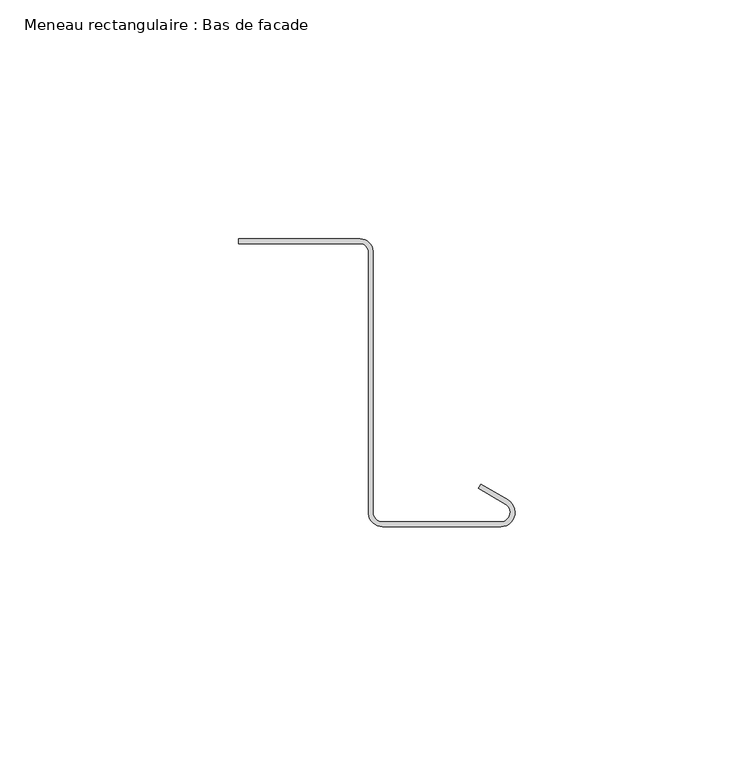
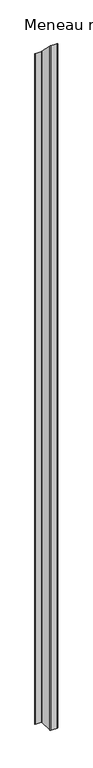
"""IFC4 building model written with IfcOpenShell, lengths in millimetres: member geometry, Meneau rectangulaire : Bas de facade."""

from ifc_helpers import new_model, si_unit, frame, origin, place, context, project, spatial, polyline, circle_curve, ellipse_curve, source, transform, mapped, element, save
from ifc_brep_helpers import plane_surface, cylinder_surface, revolved_surface, advanced_brep


def meneau_rectangulaire_bas_de_facade_c1fa5701(model_context):
    return source(origin(), model_context, "Body", "AdvancedBrep", [
        advanced_brep(
        [(-32.4584179, 2.9588923, -2865.0), (-29.7143802, 0.3898824, -2865.0), (-29.7143802, -54.5495817, -2865.0), (-27.735368, -56.2605998, -2865.0), (-3.0, -56.2605998, -2865.0), (-2.0, -52.528549, -2865.0), (-7.6638061, -49.258549, -2865.0), (-7.1638061, -48.3925235, -2865.0), (-1.5, -51.6625235, -2865.0), (-3.0, -57.2605998, -2865.0), (-27.735368, -57.2605998, -2865.0), (-30.7239521, -54.522067, -2865.0), (-30.7239521, 0.4415475, -2865.0), (-32.4584179, 1.9588923, -2865.0), (-57.8548383, 1.9588923, -2865.0), (-57.8548383, 2.9588923, -2865.0), (-57.8548383, 2.9588923, -2.9588923), (-32.4584179, 2.9588923, -2.9588923), (-57.8548383, 1.9588923, -1.9588923), (-32.4584179, 1.9588923, -1.9588923), (-30.7239521, 0.4415475, -0.4415475), (-30.7239521, -54.522067, 54.522067), (-27.735368, -57.2605998, 57.2605998), (-3.0, -57.2605998, 57.2605998), (-1.5, -51.6625235, 51.6625235), (-7.1638061, -48.3925235, 48.3925235), (-7.6638061, -49.258549, 49.258549), (-2.0, -52.528549, 52.528549), (-3.0, -56.2605998, 56.2605998), (-27.735368, -56.2605998, 56.2605998), (-29.7143802, -54.5495817, 54.5495817), (-29.7143802, 0.3898824, -0.3898824)],
        [
            (0, 1, circle_curve(frame((-32.4584179, 0.2088923, -2865.0), z_axis=(0.0, 0.0, -1.0), x_axis=(0.0, 1.0, 0.0)), 2.75)),
            (1, 2),
            (2, 3, circle_curve(frame((-27.735368, -54.2605998, -2865.0), z_axis=(0.0, 0.0, 1.0), x_axis=(-0.9961946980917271, -0.08715574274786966, 0.0)), 2.0)),
            (3, 4),
            (4, 5, circle_curve(frame((-3.0, -54.2605998, -2865.0), z_axis=(0.0, 0.0, 1.0), x_axis=(0.0, -1.0, 0.0)), 2.0)),
            (5, 6),
            (6, 7),
            (7, 8),
            (8, 9, circle_curve(frame((-3.0, -54.2605998, -2865.0), z_axis=(0.0, 0.0, -1.0), x_axis=(0.0, -1.0, 0.0)), 3.0)),
            (9, 10),
            (10, 11, circle_curve(frame((-27.735368, -54.2605998, -2865.0), z_axis=(0.0, 0.0, -1.0), x_axis=(-0.9961946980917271, -0.08715574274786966, 0.0)), 3.0)),
            (11, 12),
            (12, 13, circle_curve(frame((-32.4584179, 0.2088923, -2865.0), z_axis=(0.0, 0.0, 1.0), x_axis=(0.0, 1.0, 0.0)), 1.75)),
            (13, 14),
            (14, 15),
            (15, 0),
            (16, 17),
            (17, 0),
            (15, 16),
            (18, 16),
            (14, 18),
            (19, 18),
            (13, 19),
            (20, 19, ellipse_curve(frame((-32.4584179, 0.2088923, -0.2088923), z_axis=(0.0, 0.7071067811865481, 0.7071067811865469), x_axis=(0.0, 0.7071067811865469, -0.7071067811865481)), 2.4748737, 1.75)),
            (12, 20),
            (21, 20),
            (11, 21),
            (22, 21, ellipse_curve(frame((-27.735368, -54.2605998, 54.2605998), z_axis=(0.0, -0.7071067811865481, -0.7071067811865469), x_axis=(0.0, -0.7071067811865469, 0.7071067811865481)), 4.2426407, 3.0)),
            (10, 22),
            (23, 22),
            (9, 23),
            (24, 23, ellipse_curve(frame((-3.0, -54.2605998, 54.2605998), z_axis=(0.0, -0.7071067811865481, -0.7071067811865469), x_axis=(0.0, -0.7071067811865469, 0.7071067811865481)), 4.2426407, 3.0)),
            (8, 24),
            (25, 24),
            (7, 25),
            (26, 25),
            (6, 26),
            (27, 26),
            (5, 27),
            (28, 27, ellipse_curve(frame((-3.0, -54.2605998, 54.2605998), z_axis=(0.0, 0.7071067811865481, 0.7071067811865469), x_axis=(0.0, 0.7071067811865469, -0.7071067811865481)), 2.8284271, 2.0)),
            (4, 28),
            (29, 28),
            (3, 29),
            (30, 29, ellipse_curve(frame((-27.735368, -54.2605998, 54.2605998), z_axis=(0.0, 0.7071067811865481, 0.7071067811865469), x_axis=(0.0, 0.7071067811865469, -0.7071067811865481)), 2.8284271, 2.0)),
            (2, 30),
            (31, 30),
            (1, 31),
            (17, 31, ellipse_curve(frame((-32.4584179, 0.2088923, -0.2088923), z_axis=(0.0, -0.7071067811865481, -0.7071067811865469), x_axis=(0.0, -0.7071067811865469, 0.7071067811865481)), 3.8890873, 2.75)),
        ],
        [
            plane_surface(frame((0.0, -63.8351035, -2865.0), z_axis=(0.0, 0.0, -1.0), x_axis=(-1.0, 0.0, 0.0))),
            plane_surface(frame((-32.4584179, 2.9588923, 0.0), z_axis=(0.0, 1.0, 0.0), x_axis=(0.0, 0.0, -1.0))),
            plane_surface(frame((-57.8548383, 2.9588923, 0.0), z_axis=(-1.0, 0.0, 0.0), x_axis=(0.0, 0.0, -1.0))),
            plane_surface(frame((-57.8548383, 1.9588923, 0.0), z_axis=(0.0, -1.0, 0.0), x_axis=(0.0, 0.0, -1.0))),
            revolved_surface(polyline([(-32.4584179, 1.9588923, -2865.0), (-32.4584179, 1.9588923, 1.5411076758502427)]), (-32.4584179, 0.2088923, 0.0), (0.0, 0.0, -1.0)),
            plane_surface(frame((-30.7239521, 0.4415475, 0.0), z_axis=(-1.0, 0.0, 0.0), x_axis=(0.0, 0.0, -1.0))),
            cylinder_surface(frame((-27.735368, -54.2605998, 0.0), z_axis=(0.0, 0.0, 1.0000000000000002), x_axis=(-0.9961946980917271, -0.08715574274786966, 0.0)), 3.0),
            plane_surface(frame((-27.735368, -57.2605998, 0.0), z_axis=(0.0, -1.0, 0.0), x_axis=(0.0, 0.0, -1.0))),
            cylinder_surface(frame((-3.0, -54.2605998, 0.0), z_axis=(0.0, 0.0, 1.0), x_axis=(0.0, -1.0, 0.0)), 3.0),
            plane_surface(frame((-1.5, -51.6625235, 0.0), z_axis=(0.5000000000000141, 0.8660254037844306, 0.0), x_axis=(0.0, 0.0, -1.0))),
            plane_surface(frame((-7.1638061, -48.3925235, 0.0), z_axis=(-0.8660254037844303, 0.5000000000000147, 0.0), x_axis=(0.0, 0.0, -1.0))),
            plane_surface(frame((-7.6638061, -49.258549, 0.0), z_axis=(-0.500000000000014, -0.8660254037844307, 0.0), x_axis=(0.0, 0.0, -1.0))),
            revolved_surface(polyline([(-3.0, -56.2605998, -2865.0), (-3.0, -56.2605998, 56.2605998)]), (-3.0, -54.2605998, 0.0), (0.0, 0.0, -1.0)),
            plane_surface(frame((-3.0, -56.2605998, 0.0), z_axis=(0.0, 1.0, 0.0), x_axis=(0.0, 0.0, -1.0))),
            revolved_surface(polyline([(-29.727757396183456, -54.434911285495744, -2865.000000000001), (-29.727757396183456, -54.434911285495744, 56.26059980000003)]), (-27.735368, -54.2605998, 0.0), (0.0, 0.0, -1.0000000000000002)),
            plane_surface(frame((-29.7143802, -54.5495817, 0.0), z_axis=(1.0, 0.0, 0.0), x_axis=(0.0, 0.0, -1.0))),
            cylinder_surface(frame((-32.4584179, 0.2088923, 0.0), z_axis=(0.0, 0.0, 1.0), x_axis=(0.0, 1.0, 0.0)), 2.75),
            plane_surface(frame((-304.8, 0.0, 0.0), z_axis=(0.0, 0.7071067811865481, 0.7071067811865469), x_axis=(0.0, 0.7071067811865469, -0.7071067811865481))),
        ],
        [
            (0, [[1, 2, 3, 4, 5, 6, 7, 8, 9, 10, 11, 12, 13, 14, 15, 16]]),
            (1, [[17, 18, -16, 19]]),
            (2, [[20, -19, -15, 21]]),
            (3, [[22, -21, -14, 23]]),
            (4, [[24, -23, -13, 25]]),
            (5, [[26, -25, -12, 27]]),
            (6, [[28, -27, -11, 29]]),
            (7, [[30, -29, -10, 31]]),
            (8, [[32, -31, -9, 33]]),
            (9, [[34, -33, -8, 35]]),
            (10, [[36, -35, -7, 37]]),
            (11, [[38, -37, -6, 39]]),
            (12, [[40, -39, -5, 41]]),
            (13, [[42, -41, -4, 43]]),
            (14, [[44, -43, -3, 45]]),
            (15, [[46, -45, -2, 47]]),
            (16, [[48, -47, -1, -18]]),
            (17, [[-17, -20, -22, -24, -26, -28, -30, -32, -34, -36, -38, -40, -42, -44, -46, -48]]),
        ],
    ),
    ])


if __name__ == "__main__":
    model = new_model("IFC4")
    model_context = context("Model", 3, world=origin())
    ifc_project = project(units=[si_unit("LENGTHUNIT", "METRE", prefix="MILLI")], contexts=[model_context])
    site = spatial("IfcSite", under=ifc_project)
    building = spatial("IfcBuilding", under=site)
    placement = place(None, origin())
    meneau_rectangulaire_bas_de_facade_shape = meneau_rectangulaire_bas_de_facade_c1fa5701(model_context)
    element("IfcMember", 1, ObjectType="Meneau rectangulaire : Bas de facade", at=placement, inside=building, context=model_context, shape_type="MappedRepresentation", body=[
        mapped(meneau_rectangulaire_bas_de_facade_shape, transform((0.0, 0.0, 0.0), x_axis=(1.0, 0.0, 0.0), y_axis=(0.0, 1.0, 0.0), z_axis=(0.0, 0.0, 1.0))),
    ])
    save(model, "model.ifc")
